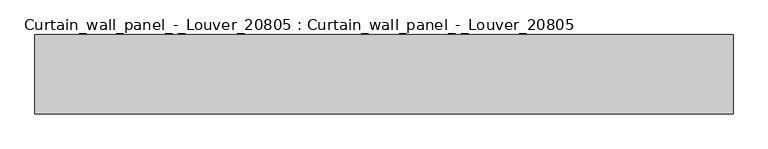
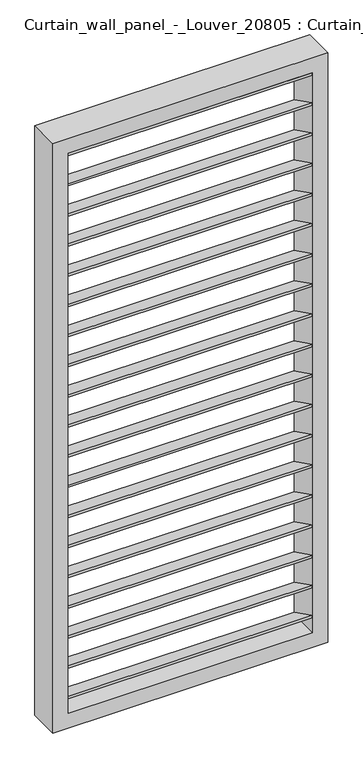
"""IFC4 building model written with IfcOpenShell, lengths in millimetres: plate geometry, Curtain_wall_panel_-_Louver_20805 : Curtain_wall_panel_-_Louver_20805."""

from ifc_helpers import new_model, si_unit, frame, origin, place, context, project, spatial, polyline, outline, extrude, source, transform, mapped, element, save


def curtain_wall_panel_louver_20805_curtain_wall_panel_louver_166f2102(model_context):
    return source(origin(), model_context, "Body", "SweptSolid", [
        extrude(outline(polyline([(-200.0, 3678.5908966), (-200.0, 3695.3408295), (0.0, 3595.9558314), (0.0, 3579.2058986), (-200.0, 3678.5908966)])), frame((-782.1696292, 0.0, 0.0), z_axis=(1.0, 0.0, 0.0), x_axis=(0.0, 1.0, 0.0)), (0.0, 0.0, 1.0), 1564.3392585),
        extrude(outline(polyline([(-200.0, 3473.9317261), (-200.0, 3490.681659), (0.0, 3391.2966609), (0.0, 3374.546728), (-200.0, 3473.9317261)])), frame((-782.1696292, 0.0, 0.0), z_axis=(1.0, 0.0, 0.0), x_axis=(0.0, 1.0, 0.0)), (0.0, 0.0, 1.0), 1564.3392585),
        extrude(outline(polyline([(-200.0, 3269.2725556), (-200.0, 3286.0224885), (0.0, 3186.6374904), (0.0, 3169.8875575), (-200.0, 3269.2725556)])), frame((-782.1696292, 0.0, 0.0), z_axis=(1.0, 0.0, 0.0), x_axis=(0.0, 1.0, 0.0)), (0.0, 0.0, 1.0), 1564.3392585),
        extrude(outline(polyline([(-200.0, 3064.6133851), (-200.0, 3081.363318), (0.0, 2981.9783199), (0.0, 2965.228387), (-200.0, 3064.6133851)])), frame((-782.1696292, 0.0, 0.0), z_axis=(1.0, 0.0, 0.0), x_axis=(0.0, 1.0, 0.0)), (0.0, 0.0, 1.0), 1564.3392585),
        extrude(outline(polyline([(-200.0, 2859.9542146), (-200.0, 2876.7041475), (0.0, 2777.3191494), (0.0, 2760.5692165), (-200.0, 2859.9542146)])), frame((-782.1696292, 0.0, 0.0), z_axis=(1.0, 0.0, 0.0), x_axis=(0.0, 1.0, 0.0)), (0.0, 0.0, 1.0), 1564.3392585),
        extrude(outline(polyline([(-200.0, 2655.2950441), (-200.0, 2672.044977), (0.0, 2572.6599789), (0.0, 2555.910046), (-200.0, 2655.2950441)])), frame((-782.1696292, 0.0, 0.0), z_axis=(1.0, 0.0, 0.0), x_axis=(0.0, 1.0, 0.0)), (0.0, 0.0, 1.0), 1564.3392585),
        extrude(outline(polyline([(-200.0, 2450.6358736), (-200.0, 2467.3858065), (0.0, 2368.0008084), (0.0, 2351.2508755), (-200.0, 2450.6358736)])), frame((-782.1696292, 0.0, 0.0), z_axis=(1.0, 0.0, 0.0), x_axis=(0.0, 1.0, 0.0)), (0.0, 0.0, 1.0), 1564.3392585),
        extrude(outline(polyline([(-200.0, 2245.9767031), (-200.0, 2262.726636), (0.0, 2163.3416379), (0.0, 2146.591705), (-200.0, 2245.9767031)])), frame((-782.1696292, 0.0, 0.0), z_axis=(1.0, 0.0, 0.0), x_axis=(0.0, 1.0, 0.0)), (0.0, 0.0, 1.0), 1564.3392585),
        extrude(outline(polyline([(-200.0, 2041.3175326), (-200.0, 2058.0674655), (0.0, 1958.6824674), (0.0, 1941.9325345), (-200.0, 2041.3175326)])), frame((-782.1696292, 0.0, 0.0), z_axis=(1.0, 0.0, 0.0), x_axis=(0.0, 1.0, 0.0)), (0.0, 0.0, 1.0), 1564.3392585),
        extrude(outline(polyline([(-200.0, 1836.6583621), (-200.0, 1853.408295), (0.0, 1754.0232969), (0.0, 1737.273364), (-200.0, 1836.6583621)])), frame((-782.1696292, 0.0, 0.0), z_axis=(1.0, 0.0, 0.0), x_axis=(0.0, 1.0, 0.0)), (0.0, 0.0, 1.0), 1564.3392585),
        extrude(outline(polyline([(-200.0, 1631.9991916), (-200.0, 1648.7491245), (0.0, 1549.3641264), (0.0, 1532.6141935), (-200.0, 1631.9991916)])), frame((-782.1696292, 0.0, 0.0), z_axis=(1.0, 0.0, 0.0), x_axis=(0.0, 1.0, 0.0)), (0.0, 0.0, 1.0), 1564.3392585),
        extrude(outline(polyline([(-200.0, 1427.3400211), (-200.0, 1444.089954), (0.0, 1344.7049559), (0.0, 1327.955023), (-200.0, 1427.3400211)])), frame((-782.1696292, 0.0, 0.0), z_axis=(1.0, 0.0, 0.0), x_axis=(0.0, 1.0, 0.0)), (0.0, 0.0, 1.0), 1564.3392585),
        extrude(outline(polyline([(-200.0, 1222.6808506), (-200.0, 1239.4307835), (0.0, 1140.0457854), (0.0, 1123.2958525), (-200.0, 1222.6808506)])), frame((-782.1696292, 0.0, 0.0), z_axis=(1.0, 0.0, 0.0), x_axis=(0.0, 1.0, 0.0)), (0.0, 0.0, 1.0), 1564.3392585),
        extrude(outline(polyline([(-200.0, 1018.0216801), (-200.0, 1034.771613), (0.0, 935.3866149), (0.0, 918.636682), (-200.0, 1018.0216801)])), frame((-782.1696292, 0.0, 0.0), z_axis=(1.0, 0.0, 0.0), x_axis=(0.0, 1.0, 0.0)), (0.0, 0.0, 1.0), 1564.3392585),
        extrude(outline(polyline([(-200.0, 813.3625096), (-200.0, 830.1124425), (0.0, 730.7274444), (0.0, 713.9775115), (-200.0, 813.3625096)])), frame((-782.1696292, 0.0, 0.0), z_axis=(1.0, 0.0, 0.0), x_axis=(0.0, 1.0, 0.0)), (0.0, 0.0, 1.0), 1564.3392585),
        extrude(outline(polyline([(-200.0, 608.7033391), (-200.0, 625.453272), (0.0, 526.0682739), (0.0, 509.318341), (-200.0, 608.7033391)])), frame((-782.1696292, 0.0, 0.0), z_axis=(1.0, 0.0, 0.0), x_axis=(0.0, 1.0, 0.0)), (0.0, 0.0, 1.0), 1564.3392585),
        extrude(outline(polyline([(-200.0, 404.0441686), (-200.0, 420.7941014), (0.0, 321.4091034), (0.0, 304.6591705), (-200.0, 404.0441686)])), frame((-782.1696292, 0.0, 0.0), z_axis=(1.0, 0.0, 0.0), x_axis=(0.0, 1.0, 0.0)), (0.0, 0.0, 1.0), 1564.3392585),
        extrude(outline(polyline([(-200.0, 3883.2500672), (-200.0, 3900.0), (0.0, 3800.6150019), (0.0, 3783.8650691), (-200.0, 3883.2500672)])), frame((-782.1696292, 0.0, 0.0), z_axis=(1.0, 0.0, 0.0), x_axis=(0.0, 1.0, 0.0)), (0.0, 0.0, 1.0), 1564.3392585),
        extrude(outline(polyline([(-200.0, 199.3849981), (-200.0, 216.1349309), (0.0, 116.7499328), (0.0, 100.0), (-200.0, 199.3849981)])), frame((-782.1696292, 0.0, 0.0), z_axis=(1.0, 0.0, 0.0), x_axis=(0.0, 1.0, 0.0)), (0.0, 0.0, 1.0), 1564.3392585),
        extrude(outline(polyline([(4000.0, -882.1696292), (0.0, -882.1696292), (0.0, 882.1696292), (4000.0, 882.1696292), (4000.0, -882.1696292)]), holes=[polyline([(3900.0, -782.1696292), (3900.0, 782.1696292), (100.0, 782.1696292), (100.0, -782.1696292), (3900.0, -782.1696292)])]), frame((0.0, -200.0, 0.0), z_axis=(0.0, 1.0, 0.0), x_axis=(0.0, 0.0, 1.0)), (0.0, 0.0, 1.0), 200.0),
    ])


if __name__ == "__main__":
    model = new_model("IFC4")
    model_context = context("Model", 3, world=origin())
    ifc_project = project(units=[si_unit("LENGTHUNIT", "METRE", prefix="MILLI")], contexts=[model_context])
    site = spatial("IfcSite", under=ifc_project)
    building = spatial("IfcBuilding", under=site)
    placement = place(None, origin())
    curtain_wall_panel_louver_20805_curtain_wall_panel_louver_shape = curtain_wall_panel_louver_20805_curtain_wall_panel_louver_166f2102(model_context)
    element("IfcPlate", 1, ObjectType="Curtain_wall_panel_-_Louver_20805 : Curtain_wall_panel_-_Louver_20805", at=placement, inside=building, context=model_context, shape_type="MappedRepresentation", body=[
        mapped(curtain_wall_panel_louver_20805_curtain_wall_panel_louver_shape, transform((0.0, 0.0, 0.0), x_axis=(1.0, 0.0, 0.0), y_axis=(0.0, 1.0, 0.0), z_axis=(0.0, 0.0, 1.0))),
    ])
    save(model, "model.ifc")
